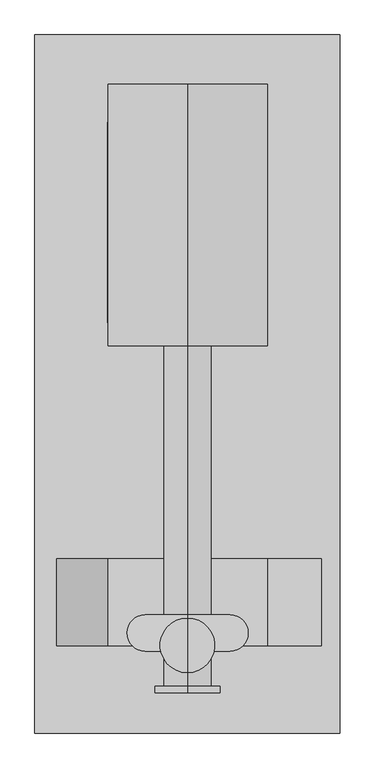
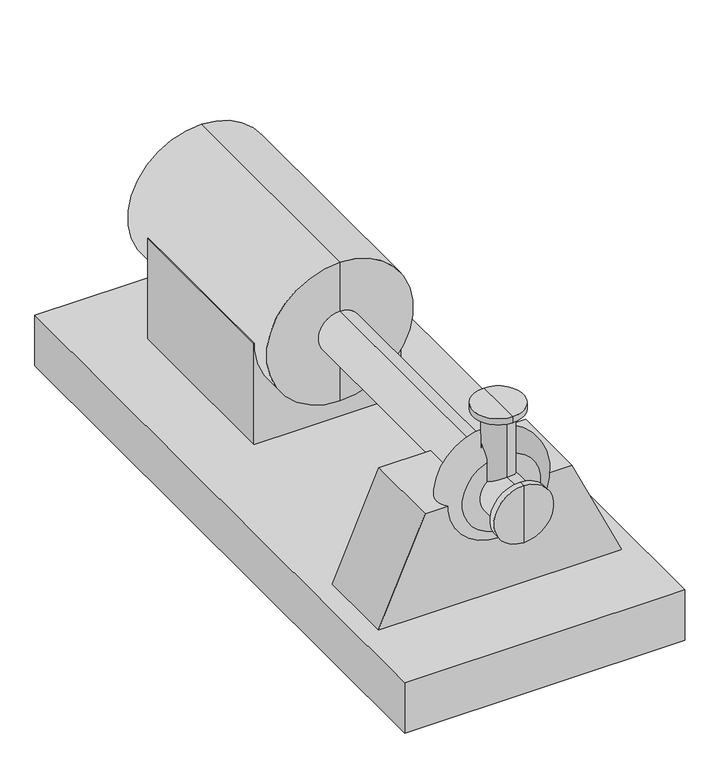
"""IFC4 building model written with IfcOpenShell, lengths in millimetres: proxy geometry, 3x4x13_mech_pump_standin1 : 3x4x13_mech_pump_standin1."""

from ifc_helpers import new_model, si_unit, point, frame, origin, origin_with_axes, place, context, project, spatial, polyline, circle_curve, ellipse_curve, trimmed, outline, extrude, source, transform, mapped, element, save
from ifc_brep_helpers import plane_surface, cylinder_surface, revolved_surface, advanced_brep


def mechanical_equipment_f504722a(model_context):
    return source(origin(), model_context, "Body", "SolidModel", [
        extrude(outline(polyline([(1261.1413459, 2334.2494047), (702.3413459, 2334.2494047), (702.3413459, 3034.0520739), (1261.1413459, 3034.0520739), (1261.1413459, 2334.2494047)])), frame((0.0, 0.0, 203.2160261), z_axis=(0.0, 0.0, 1.0), x_axis=(1.0, 0.0, 0.0)), (0.0, 0.0, 1.0), 406.4),
        extrude(outline(polyline([(609.6160261, 702.3413459), (203.2160261, 524.5413459), (203.2160261, 1450.6487782), (609.6160261, 1261.1413459), (609.6160261, 702.3413459)])), frame((0.0, 1205.2520739, 0.0), z_axis=(0.0, 1.0, 0.0), x_axis=(0.0, 0.0, 1.0)), (0.0, 0.0, 1.0), 304.8),
        advanced_brep(
        [(981.7413459, 1149.6260739, 609.6160261), (981.7413459, 1263.9260739, 609.6160261), (981.7413459, 1206.7760739, 609.6160261), (981.7413459, 1149.6260739, 934.9900261), (981.7413459, 1263.9260739, 934.9900261), (981.7413459, 1111.5260739, 934.9900261), (981.7413459, 1302.0260739, 934.9900261), (981.7413459, 1111.5260739, 958.762155), (981.7413459, 1302.0260739, 958.762155), (981.7413459, 1206.7760739, 958.762155)],
        [
            (0, 1, circle_curve(frame((981.7413459, 1206.7760739, 609.6160261), z_axis=(0.0, 0.0, -1.0), x_axis=(0.0, 1.0, 0.0)), 57.15)),
            (1, 2),
            (2, 0),
            (1, 0, circle_curve(frame((981.7413459, 1206.7760739, 609.6160261), z_axis=(0.0, 0.0, -1.0), x_axis=(0.0, 1.0, 0.0)), 57.15)),
            (3, 4, circle_curve(frame((981.7413459, 1206.7760739, 934.9900261), z_axis=(0.0, 0.0, -1.0), x_axis=(0.0, 1.0, 0.0)), 57.15)),
            (4, 1),
            (0, 3),
            (4, 3, circle_curve(frame((981.7413459, 1206.7760739, 934.9900261), z_axis=(0.0, 0.0, -1.0), x_axis=(0.0, 1.0, 0.0)), 57.15)),
            (5, 6, circle_curve(frame((981.7413459, 1206.7760739, 934.9900261), z_axis=(0.0, 0.0, -1.0), x_axis=(0.0, 1.0, 0.0)), 95.25)),
            (6, 4),
            (3, 5),
            (6, 5, circle_curve(frame((981.7413459, 1206.7760739, 934.9900261), z_axis=(0.0, 0.0, -1.0), x_axis=(0.0, 1.0, 0.0)), 95.25)),
            (7, 8, circle_curve(frame((981.7413459, 1206.7760739, 958.762155), z_axis=(0.0, 0.0, -1.0), x_axis=(0.0, 1.0, 0.0)), 95.25)),
            (8, 6),
            (5, 7),
            (8, 7, circle_curve(frame((981.7413459, 1206.7760739, 958.762155), z_axis=(0.0, 0.0, -1.0), x_axis=(0.0, 1.0, 0.0)), 95.25)),
            (9, 8),
            (7, 9),
        ],
        [
            plane_surface(frame((981.7413459, 1206.7760739, 609.6160261), z_axis=(0.0, 0.0, -1.0), x_axis=(0.0, 1.0, 0.0))),
            cylinder_surface(frame((981.7413459, 1206.7760739, 934.9900261), z_axis=(0.0, 0.0, 1.0), x_axis=(0.0, 1.0, 0.0)), 57.15),
            plane_surface(frame((981.7413459, 1206.7760739, 934.9900261), z_axis=(0.0, 0.0, -1.0), x_axis=(0.0, 1.0, 0.0))),
            cylinder_surface(frame((981.7413459, 1206.7760739, 934.9900261), z_axis=(0.0, 0.0, 1.0), x_axis=(0.0, 1.0, 0.0)), 95.25),
            plane_surface(frame((981.7413459, 1206.7760739, 958.762155), z_axis=(0.0, 0.0, 1.0), x_axis=(0.0, 1.0, 0.0))),
        ],
        [
            (0, [[1, 2, 3]]),
            (0, [[4, -3, -2]]),
            (1, [[5, 6, -1, 7]]),
            (1, [[8, -7, -4, -6]]),
            (2, [[9, 10, -5, 11]]),
            (2, [[12, -11, -8, -10]]),
            (3, [[13, 14, -9, 15]]),
            (3, [[16, -15, -12, -14]]),
            (4, [[17, -13, 18]]),
            (4, [[-18, -16, -17]]),
        ],
    ),
        advanced_brep(
        [(982.3913131, 3166.8940739, 330.2160261), (982.3913131, 3166.8940739, 889.0160261), (982.3913131, 3166.8940739, 609.6160261), (982.3913131, 2252.4940739, 330.2160261), (982.3913131, 2252.4940739, 889.0160261), (982.3913131, 2252.4940739, 527.0660261), (982.3913131, 2252.4940739, 692.1660261), (982.3913131, 1313.4560739, 527.0660261), (982.3913131, 1313.4560739, 692.1660261), (982.3913131, 1064.2185739, 495.3160261), (982.3913131, 1064.2185739, 723.9160261), (982.3913131, 1064.2185739, 692.1660261), (982.3913131, 1064.2185739, 527.0660261), (982.3913131, 1040.4060739, 495.3160261), (982.3913131, 1040.4060739, 723.9160261), (982.3913131, 1313.4560739, 460.3910261), (982.3913131, 1313.4560739, 758.8410261), (982.3913131, 1186.4560739, 527.0660261), (982.3913131, 1186.4560739, 692.1660261), (982.3913131, 1186.4560739, 758.8410261), (982.3913131, 1186.4560739, 460.3910261), (982.3913131, 1040.4060739, 609.6160261)],
        [
            (0, 1, circle_curve(frame((982.3913131, 3166.8940739, 609.6160261), z_axis=(0.0, 1.0, 0.0), x_axis=(0.0, 0.0, 1.0)), 279.4)),
            (1, 2),
            (2, 0),
            (1, 0, circle_curve(frame((982.3913131, 3166.8940739, 609.6160261), z_axis=(0.0, 1.0, 0.0), x_axis=(0.0, 0.0, 1.0)), 279.4)),
            (3, 4, circle_curve(frame((982.3913131, 2252.4940739, 609.6160261), z_axis=(0.0, 1.0, 0.0), x_axis=(0.0, 0.0, 1.0)), 279.4)),
            (4, 1),
            (0, 3),
            (4, 3, circle_curve(frame((982.3913131, 2252.4940739, 609.6160261), z_axis=(0.0, 1.0, 0.0), x_axis=(0.0, 0.0, 1.0)), 279.4)),
            (5, 6, circle_curve(frame((982.3913131, 2252.4940739, 609.6160261), z_axis=(0.0, 1.0, 0.0), x_axis=(0.0, 0.0, 1.0)), 82.55)),
            (6, 4),
            (3, 5),
            (6, 5, circle_curve(frame((982.3913131, 2252.4940739, 609.6160261), z_axis=(0.0, 1.0, 0.0), x_axis=(0.0, 0.0, 1.0)), 82.55)),
            (7, 8, circle_curve(frame((982.3913131, 1313.4560739, 609.6160261), z_axis=(0.0, 1.0, 0.0), x_axis=(0.0, 0.0, 1.0)), 82.55)),
            (8, 6),
            (5, 7),
            (8, 7, circle_curve(frame((982.3913131, 1313.4560739, 609.6160261), z_axis=(0.0, 1.0, 0.0), x_axis=(0.0, 0.0, 1.0)), 82.55)),
            (9, 10, circle_curve(frame((982.3913131, 1064.2185739, 609.6160261), z_axis=(0.0, 1.0, 0.0), x_axis=(0.0, 0.0, 1.0)), 114.3)),
            (10, 11),
            (11, 12, circle_curve(frame((982.3913131, 1064.2185739, 609.6160261), z_axis=(0.0, -1.0, 0.0), x_axis=(0.0, 0.0, 1.0)), 82.55)),
            (12, 9),
            (10, 9, circle_curve(frame((982.3913131, 1064.2185739, 609.6160261), z_axis=(0.0, 1.0, 0.0), x_axis=(0.0, 0.0, 1.0)), 114.3)),
            (12, 11, circle_curve(frame((982.3913131, 1064.2185739, 609.6160261), z_axis=(0.0, -1.0, 0.0), x_axis=(0.0, 0.0, 1.0)), 82.55)),
            (13, 14, circle_curve(frame((982.3913131, 1040.4060739, 609.6160261), z_axis=(0.0, 1.0, 0.0), x_axis=(0.0, 0.0, 1.0)), 114.3)),
            (14, 10),
            (9, 13),
            (14, 13, circle_curve(frame((982.3913131, 1040.4060739, 609.6160261), z_axis=(0.0, 1.0, 0.0), x_axis=(0.0, 0.0, 1.0)), 114.3)),
            (15, 16, circle_curve(frame((982.3913131, 1313.4560739, 609.6160261), z_axis=(0.0, 1.0, 0.0), x_axis=(0.0, 0.0, 1.0)), 149.225)),
            (16, 8),
            (7, 15),
            (16, 15, circle_curve(frame((982.3913131, 1313.4560739, 609.6160261), z_axis=(0.0, 1.0, 0.0), x_axis=(0.0, 0.0, 1.0)), 149.225)),
            (17, 18, circle_curve(frame((982.3913131, 1186.4560739, 609.6160261), z_axis=(0.0, 1.0, 0.0), x_axis=(0.0, 0.0, 1.0)), 82.55)),
            (18, 19),
            (19, 20, circle_curve(frame((982.3913131, 1186.4560739, 609.6160261), z_axis=(0.0, -1.0, 0.0), x_axis=(0.0, 0.0, 1.0)), 149.225)),
            (20, 17),
            (18, 17, circle_curve(frame((982.3913131, 1186.4560739, 609.6160261), z_axis=(0.0, 1.0, 0.0), x_axis=(0.0, 0.0, 1.0)), 82.55)),
            (20, 19, circle_curve(frame((982.3913131, 1186.4560739, 609.6160261), z_axis=(0.0, -1.0, 0.0), x_axis=(0.0, 0.0, 1.0)), 149.225)),
            (11, 18),
            (17, 12),
            (19, 16, circle_curve(frame((982.3913131, 1249.9560739, 758.8410261), z_axis=(-1.0, 0.0, 0.0), x_axis=(0.0, 1.0, 0.0)), 63.5)),
            (15, 20, circle_curve(frame((982.3913131, 1249.9560739, 460.3910261), z_axis=(-1.0, 0.0, 0.0), x_axis=(0.0, 1.0, 0.0)), 63.5)),
            (21, 14),
            (13, 21),
        ],
        [
            plane_surface(frame((982.3913131, 3166.8940739, 609.6160261), z_axis=(0.0, 1.0, 0.0), x_axis=(0.0, 0.0, 1.0))),
            cylinder_surface(frame((982.3913131, 2075.4560739, 609.6160261), z_axis=(0.0, -1.0, 0.0), x_axis=(0.0, 0.0, 1.0)), 279.4),
            plane_surface(frame((982.3913131, 2252.4940739, 609.6160261), z_axis=(0.0, -1.0, 0.0), x_axis=(0.0, 0.0, 1.0))),
            cylinder_surface(frame((982.3913131, 2075.4560739, 609.6160261), z_axis=(0.0, -1.0, 0.0), x_axis=(0.0, 0.0, 1.0)), 82.55),
            plane_surface(frame((982.3913131, 1064.2185739, 609.6160261), z_axis=(0.0, 1.0, 0.0), x_axis=(0.0, 0.0, 1.0))),
            cylinder_surface(frame((982.3913131, 2075.4560739, 609.6160261), z_axis=(0.0, -1.0, 0.0), x_axis=(0.0, 0.0, 1.0)), 114.3),
            plane_surface(frame((982.3913131, 1313.4560739, 609.6160261), z_axis=(0.0, 1.0, 0.0), x_axis=(0.0, 0.0, 1.0))),
            plane_surface(frame((982.3913131, 1186.4560739, 609.6160261), z_axis=(0.0, -1.0, 0.0), x_axis=(0.0, 0.0, 1.0))),
            revolved_surface(trimmed(ellipse_curve(frame((982.3913131, 1249.9560739, 758.8410261), z_axis=(1.0, 0.0, 0.0), x_axis=(0.0, 1.0, 0.0)), 63.5, 63.5), [point((982.3913131, 1313.4560739, 758.8410261))], [point((982.3913131, 1186.4560739, 758.8410261))], True, "CARTESIAN"), (982.3913131, 2075.4560739, 609.6160261), (0.0, -1.0, 0.0)),
            plane_surface(frame((982.3913131, 1040.4060739, 609.6160261), z_axis=(0.0, -1.0, 0.0), x_axis=(0.0, 0.0, 1.0))),
        ],
        [
            (0, [[1, 2, 3]]),
            (0, [[4, -3, -2]]),
            (1, [[5, 6, -1, 7]]),
            (1, [[8, -7, -4, -6]]),
            (2, [[9, 10, -5, 11]]),
            (2, [[12, -11, -8, -10]]),
            (3, [[13, 14, -9, 15]]),
            (3, [[16, -15, -12, -14]]),
            (4, [[17, 18, 19, 20]]),
            (4, [[21, -20, 22, -18]]),
            (5, [[23, 24, -17, 25]]),
            (5, [[26, -25, -21, -24]]),
            (6, [[27, 28, -13, 29]]),
            (6, [[30, -29, -16, -28]]),
            (7, [[31, 32, 33, 34]]),
            (7, [[35, -34, 36, -32]]),
            (3, [[-19, 37, -31, 38]]),
            (3, [[-22, -38, -35, -37]]),
            (8, [[-33, 39, -27, 40]]),
            (8, [[-36, -40, -30, -39]]),
            (9, [[41, -23, 42]]),
            (9, [[-42, -26, -41]]),
        ],
    ),
        extrude(outline(polyline([(1515.1591097, 3338.8520739), (1515.1591097, 900.4520739), (448.3591097, 900.4520739), (448.3591097, 3338.8520739), (1515.1591097, 3338.8520739)])), origin_with_axes(), (0.0, 0.0, 1.0), 203.2),
    ])


if __name__ == "__main__":
    model = new_model("IFC4")
    model_context = context("Model", 3, world=origin())
    ifc_project = project(units=[si_unit("LENGTHUNIT", "METRE", prefix="MILLI")], contexts=[model_context])
    site = spatial("IfcSite", under=ifc_project)
    building = spatial("IfcBuilding", under=site)
    placement = place(None, origin())
    mechanical_equipment_shape = mechanical_equipment_f504722a(model_context)
    element("IfcBuildingElementProxy", 1, Name="3x4x13_mech_pump_standin1 : 3x4x13_mech_pump_standin1", ObjectType="3x4x13_mech_pump_standin1 : 3x4x13_mech_pump_standin1", at=placement, inside=building, context=model_context, shape_type="MappedRepresentation", body=[
        mapped(mechanical_equipment_shape, transform((0.0, 0.0, 0.0), x_axis=(1.0, 0.0, 0.0), y_axis=(0.0, 1.0, 0.0), z_axis=(0.0, 0.0, 1.0))),
    ])
    save(model, "model.ifc")
